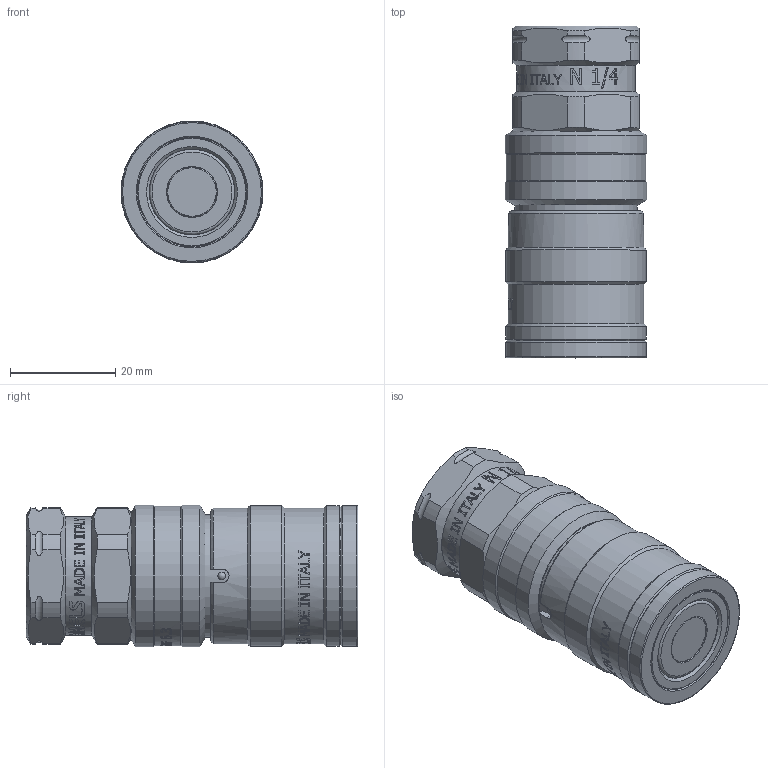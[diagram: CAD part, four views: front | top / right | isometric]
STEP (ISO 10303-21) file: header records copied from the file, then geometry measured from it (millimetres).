
FILE_DESCRIPTION(/* description */ (''),/* implementation_level */ '2;1');
FILE_NAME(/* name */ 'NC06N010000.stp',/* time_stamp */ '2024-08-09T14:55:57+02:00',/* author */ ('nicholas.facchinetti'),/* organization */ (''),/* preprocessor_version */ 'ST-DEVELOPER v19.2',/* originating_system */ 'Autodesk Inventor 2024',/* authorisation */ '');
FILE_SCHEMA (('AUTOMOTIVE_DESIGN { 1 0 10303 214 3 1 1 }'));
Products named in the file (1): Parte8
Bounding box: 27 x 63.09 x 27 mm (x, y, z)
Volume: 30759.6 mm3; surface area: 10084.4 mm2
Topology: 1 solids, 1 shells, 1627 faces, 4633 edges, 3078 vertices
Faces by surface type: bspline 1060, plane 416, cylinder 116, cone 21, torus 12, sphere 2
Full cylindrical faces by diameter (mm): 5 x1, 9.6 x1, 9.7 x1, 10.719 x1, 16.3 x1, 20.4 x1, 20.8 x1, 22.5 x1, 23.234 x1, 23.4 x1, 25.8 x2, 26.5 x1, 26.8 x3, 27 x2
Entity records: 70394 total; most frequent: CARTESIAN_POINT 33384, ORIENTED_EDGE 9266, EDGE_CURVE 4633, DIRECTION 4100, VERTEX_POINT 3078, B_SPLINE_CURVE_WITH_KNOTS 2210, LINE 1826, VECTOR 1826
